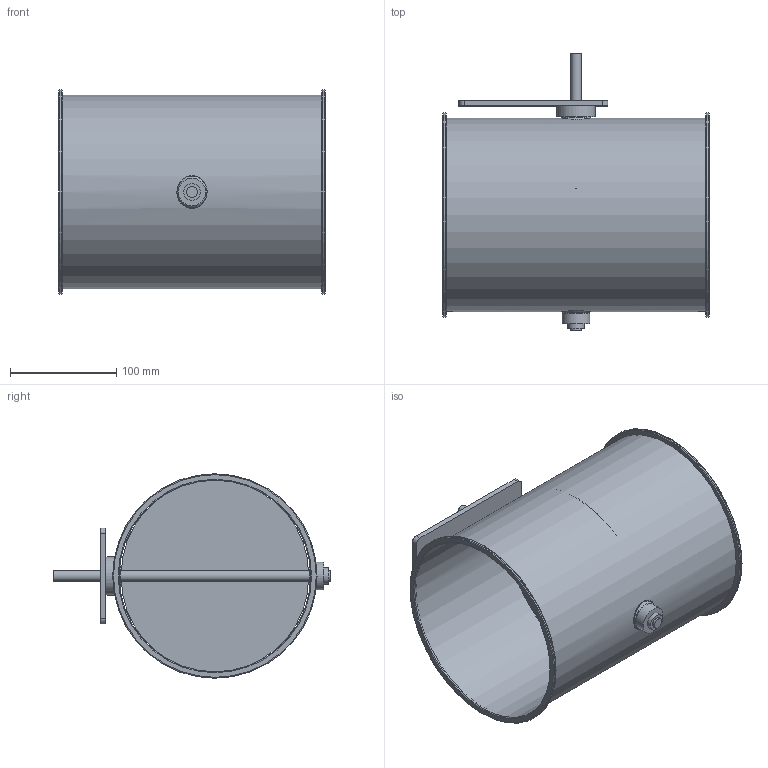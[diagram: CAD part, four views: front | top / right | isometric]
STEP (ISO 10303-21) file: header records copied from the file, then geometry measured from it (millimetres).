
FILE_DESCRIPTION(/* description */ (''),/* implementation_level */ '2;1');
FILE_NAME(/* name */ 'EA126-80B__180_L250_Belimo_Typ_NM.stp',/* time_stamp */ '2017-12-06T13:56:06+01:00',/* author */ (''),/* organization */ (''),/* preprocessor_version */ 'ST-DEVELOPER v11',/* originating_system */ 'SIEMENS UGS NX 6.0',/* authorisation */ '');
FILE_SCHEMA (('CONFIG_CONTROL_DESIGN'));
Length unit declared in the file: millimetre
Products named in the file (1): gars18E2j237
Bounding box: 250 x 261 x 192 mm (x, y, z)
Volume: 256521.7 mm3; surface area: 391747.5 mm2
Topology: 8 solids, 8 shells, 76 faces, 161 edges, 109 vertices
Faces by surface type: plane 30, cylinder 28, torus 10, cone 4, bspline 4
Full cylindrical faces by diameter (mm): 4.1 x4, 10 x3, 15 x3, 15.85 x2, 16 x2, 24 x2, 26 x1, 36 x1, 180 x1, 181.6 x1, 192 x2
Entity records: 2394 total; most frequent: CARTESIAN_POINT 871, DIRECTION 310, ORIENTED_EDGE 204, EDGE_LOOP 148, AXIS2_PLACEMENT_3D 143, FACE_BOUND 134, EDGE_CURVE 102, VERTEX_POINT 90
